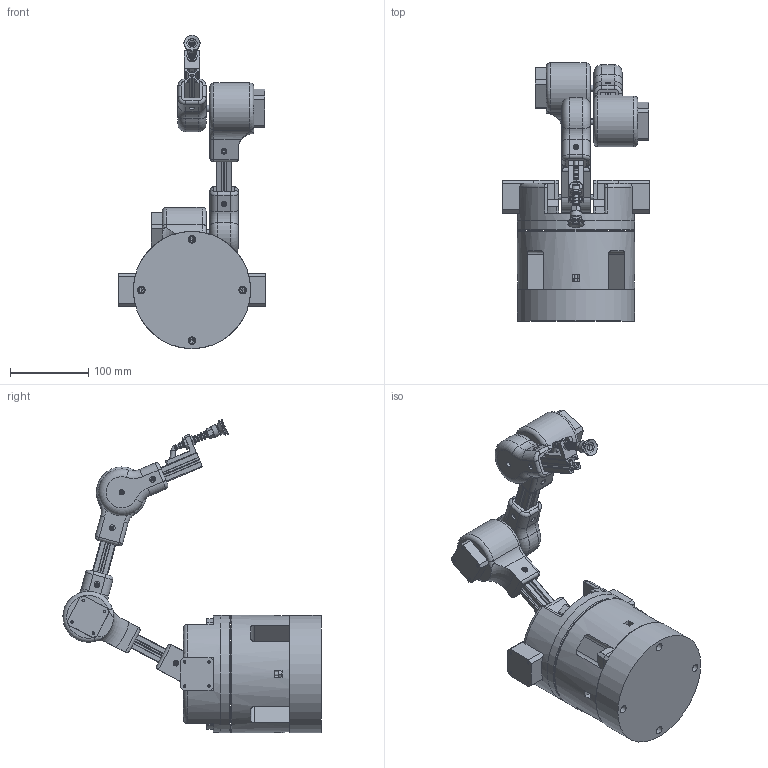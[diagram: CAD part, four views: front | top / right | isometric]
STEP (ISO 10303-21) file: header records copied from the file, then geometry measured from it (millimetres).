
FILE_DESCRIPTION(/* description */ ('','CAx-IF Rec.Pracs.---Representation and Presentation of Product Manufacturing Information (PMI)---4.0---2014-10-13'),/* implementation_level */ '2;1');
FILE_NAME(/* name */ 'Assieme_robot_cicloidale.stp',/* time_stamp */ '2026-03-21T13:47:46+01:00',/* author */ ('R5800u'),/* organization */ (''),/* preprocessor_version */ 'ST-DEVELOPER v20',/* originating_system */ 'Autodesk Inventor 2025',/* authorisation */ '');
FILE_SCHEMA (('AP242_MANAGED_MODEL_BASED_3D_ENGINEERING_MIM_LF { 1 0 10303 442 1 1 4 }'));
Length unit declared in the file: millimetre
Products named in the file (31): Assieme_robot; braccio1; riduttore_cicloidale_nema17-47mm; NEMA 17; base_ferro; ISO 104 - 1 11 50 x 70 x 14; blocco_base; disco_base1; disco_base2; staffa_nema; AS 1112 - M5  Tipo 5; ANSI B18.3.1M - M5x0,8 x 50, FSHCSM; tslot-20x20-100mm; blocco_nema; riduttore_cicloidale_nema17-40mm; NEMA 17-40mm; riduttore ciccloidale TS42 15-1; blocco_albero_nema; R.03.Suction Grab; R.03.01.Cup; R.03.02.Tube; R.03.03.Spring; R.03.04.Fitting; DIN 3771 - 5 x 1,8 - N - NBR 70; R.03.05.Interface; R.03.06.Nut; blocco_ventosa_profilato; tslot-20x20-100mm_1; tubo_silicone; AS 1420 - 1973 - M3 x 16; AS 1112 - M4  Tipo 5
Assembly tree (51 placements, depth 3):
  Assieme_robot
    riduttore_cicloidale_nema17-47mm  x2
      NEMA 17
      riduttore ciccloidale TS42 15-1
    braccio1
    tslot-20x20-100mm  x2
    riduttore_cicloidale_nema17-40mm  x3
      NEMA 17-40mm
      riduttore ciccloidale TS42 15-1
    base_ferro
    ISO 104 - 1 11 50 x 70 x 14
    blocco_base
    disco_base1
    disco_base2
    staffa_nema  x2
    AS 1112 - M5  Tipo 5  x8
    ANSI B18.3.1M - M5x0,8 x 50, FSHCSM  x4
    blocco_nema  x2
    blocco_albero_nema  x2
    R.03.Suction Grab
      R.03.01.Cup
      R.03.02.Tube
      R.03.03.Spring
      R.03.04.Fitting
      DIN 3771 - 5 x 1,8 - N - NBR 70
      R.03.05.Interface
      R.03.06.Nut
      blocco_ventosa_profilato
      tslot-20x20-100mm_1
      tubo_silicone
    AS 1420 - 1973 - M3 x 16
    AS 1112 - M4  Tipo 5  x4
Bounding box: 188 x 330.57 x 401.08 mm (x, y, z)
Volume: 3358100.8 mm3; surface area: 586282.2 mm2
Topology: 68 solids, 70 shells, 1715 faces, 4104 edges, 2611 vertices
Faces by surface type: plane 784, cylinder 495, cone 233, torus 123, sphere 56, bspline 24
Full cylindrical faces by diameter (mm): 2 x1, 2.459 x25, 2.5 x1, 3 x2, 3.2 x26, 3.242 x32, 3.4 x3, 4.134 x8, 4.2 x3, 4.3 x34, 4.5 x4, 5 x17, 5.25 x1, 5.3 x12, 5.5 x1, 6 x26, 6.2 x3, 6.5 x8, 7 x2, 7.5 x18, 8 x2, 8.5 x4, 8.9 x4, 10 x11, 15 x1, 20 x1, 22 x15, 22.2 x3, 22.5 x2, 49 x1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
Entity records: 39204 total; most frequent: CARTESIAN_POINT 9874, DIRECTION 5970, ORIENTED_EDGE 4516, AXIS2_PLACEMENT_3D 2399, EDGE_CURVE 2268, VERTEX_POINT 1539, LINE 1172, VECTOR 1172
